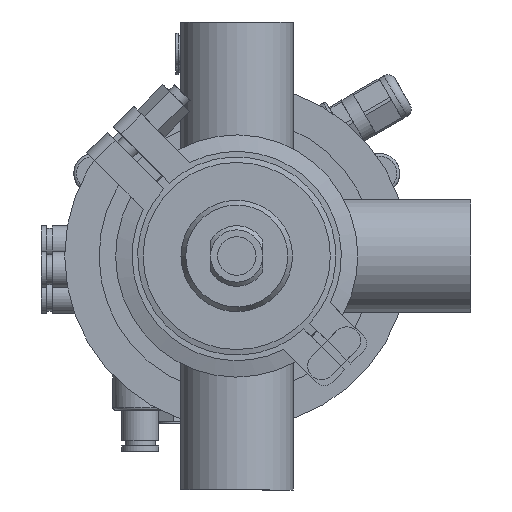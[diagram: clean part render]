
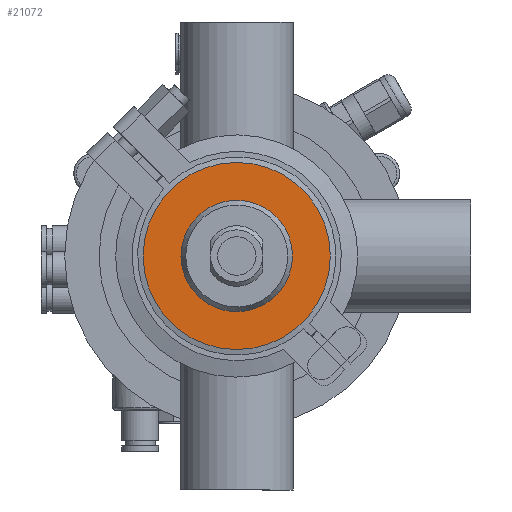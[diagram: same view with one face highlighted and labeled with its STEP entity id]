
A CAD part, front view. The second image highlights one B-rep face of the part: STEP entity #21072.
In plain terms, the highlighted planar face has unit normal (0, -1, 0).
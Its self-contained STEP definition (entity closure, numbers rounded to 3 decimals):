
#526 = VERTEX_POINT ( 'NONE', #58340 ) ;
#5822 = DIRECTION ( 'NONE',  ( 0., -1., 0. ) ) ;
#9444 = AXIS2_PLACEMENT_3D ( 'NONE', #48803, #5822, #50714 ) ;
#10143 = EDGE_LOOP ( 'NONE', ( #52542 ) ) ;
#10288 = PLANE ( 'NONE',  #9444 ) ;
#12153 = EDGE_CURVE ( 'NONE', #61629, #61629, #13171, .T. ) ;
#13171 = CIRCLE ( 'NONE', #58567, 20.25 ) ;
#14812 = CARTESIAN_POINT ( 'NONE',  ( 0., -13., 20.25 ) ) ;
#20338 = FACE_BOUND ( 'NONE', #10143, .T. ) ;
#21072 = ADVANCED_FACE ( 'NONE', ( #20338, #49421 ), #10288, .T. ) ;
#21176 = CARTESIAN_POINT ( 'NONE',  ( 0., -13., 0. ) ) ;
#24468 = EDGE_LOOP ( 'NONE', ( #47411 ) ) ;
#26980 = DIRECTION ( 'NONE',  ( 0., 1., 0. ) ) ;
#32324 = EDGE_CURVE ( 'NONE', #526, #526, #59319, .T. ) ;
#42166 = AXIS2_PLACEMENT_3D ( 'NONE', #56622, #26980, #51890 ) ;
#42308 = DIRECTION ( 'NONE',  ( 0., 0., 1. ) ) ;
#47411 = ORIENTED_EDGE ( 'NONE', *, *, #32324, .F. ) ;
#48803 = CARTESIAN_POINT ( 'NONE',  ( -34., -13., 0. ) ) ;
#49421 = FACE_OUTER_BOUND ( 'NONE', #24468, .T. ) ;
#50714 = DIRECTION ( 'NONE',  ( 0., 0., -1. ) ) ;
#51240 = DIRECTION ( 'NONE',  ( 0., 1., 0. ) ) ;
#51890 = DIRECTION ( 'NONE',  ( 0., 0., 1. ) ) ;
#52542 = ORIENTED_EDGE ( 'NONE', *, *, #12153, .T. ) ;
#56622 = CARTESIAN_POINT ( 'NONE',  ( 0., -13., 0. ) ) ;
#58340 = CARTESIAN_POINT ( 'NONE',  ( 0., -13., 34. ) ) ;
#58567 = AXIS2_PLACEMENT_3D ( 'NONE', #21176, #51240, #42308 ) ;
#59319 = CIRCLE ( 'NONE', #42166, 34. ) ;
#61629 = VERTEX_POINT ( 'NONE', #14812 ) ;
